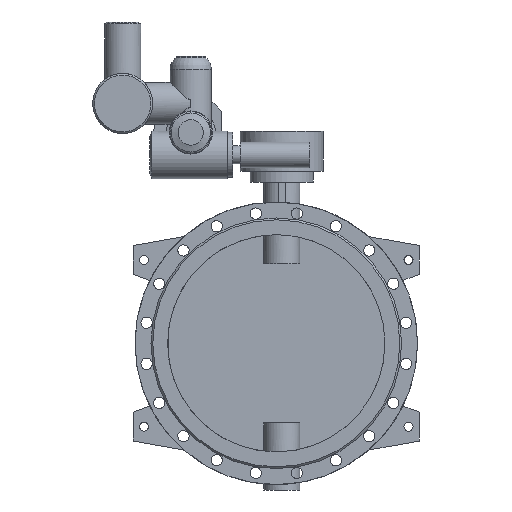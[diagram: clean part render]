
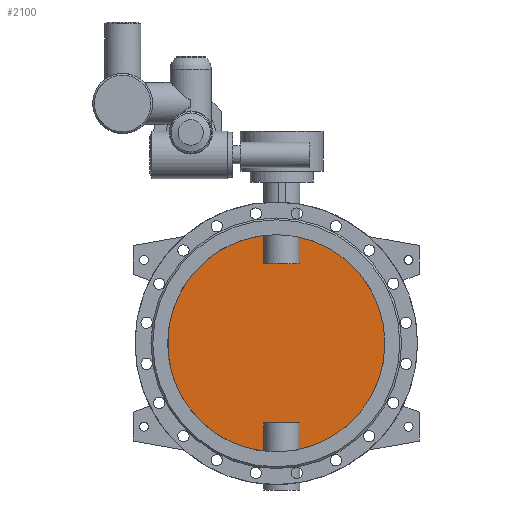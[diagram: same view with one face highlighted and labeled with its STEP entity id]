
A CAD part, front view. The second image highlights one B-rep face of the part: STEP entity #2100.
In plain terms, the highlighted planar face has unit normal (0, -1, 0).
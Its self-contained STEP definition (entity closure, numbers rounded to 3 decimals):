
#2100=ADVANCED_FACE('',(#4215),#4217,.F.);
#4215=FACE_BOUND('',#4216,.T.);
#4216=EDGE_LOOP('',(#5159,#5160,#5161,#5162,#5163,#5164,#5165,#5166));
#4217=PLANE('',#4218);
#4218=AXIS2_PLACEMENT_3D('',#4219,#4220,#4221);
#4219=CARTESIAN_POINT('',(0.,-5.,0.));
#4220=DIRECTION('',(0.,1.,0.));
#4221=DIRECTION('',(1.,0.,0.));
#5159=ORIENTED_EDGE('',*,*,#5632,.T.);
#5160=ORIENTED_EDGE('',*,*,#5637,.T.);
#5161=ORIENTED_EDGE('',*,*,#5638,.T.);
#5162=ORIENTED_EDGE('',*,*,#5639,.T.);
#5163=ORIENTED_EDGE('',*,*,#5634,.T.);
#5164=ORIENTED_EDGE('',*,*,#5640,.T.);
#5165=ORIENTED_EDGE('',*,*,#5641,.T.);
#5166=ORIENTED_EDGE('',*,*,#5642,.T.);
#5632=EDGE_CURVE('',#6461,#6462,#6463,.F.);
#5634=EDGE_CURVE('',#6466,#6464,#6467,.F.);
#5637=EDGE_CURVE('',#6462,#6471,#6472,.T.);
#5638=EDGE_CURVE('',#6471,#6473,#6474,.F.);
#5639=EDGE_CURVE('',#6473,#6466,#6475,.F.);
#5640=EDGE_CURVE('',#6464,#6476,#6477,.F.);
#5641=EDGE_CURVE('',#6476,#6478,#6479,.F.);
#5642=EDGE_CURVE('',#6478,#6461,#6480,.T.);
#6461=VERTEX_POINT('',#10587);
#6462=VERTEX_POINT('',#10588);
#6463=CIRCLE('',#10589,300.);
#6464=VERTEX_POINT('',#10593);
#6466=VERTEX_POINT('',#10680);
#6467=CIRCLE('',#10681,300.);
#6471=VERTEX_POINT('',#10798);
#6472=LINE('',#10799,#10800);
#6473=VERTEX_POINT('',#10802);
#6474=LINE('',#10803,#10804);
#6475=LINE('',#10806,#10807);
#6476=VERTEX_POINT('',#10809);
#6477=LINE('',#10810,#10811);
#6478=VERTEX_POINT('',#10813);
#6479=LINE('',#10814,#10815);
#6480=LINE('',#10817,#10818);
#10587=CARTESIAN_POINT('',(64.749,-5.,-292.929));
#10588=CARTESIAN_POINT('',(64.749,-5.,292.929));
#10589=AXIS2_PLACEMENT_3D('',#10590,#10591,#10592);
#10590=CARTESIAN_POINT('',(0.,-5.,0.));
#10591=DIRECTION('',(0.,1.,0.));
#10592=DIRECTION('',(0.216,0.,0.976));
#10593=CARTESIAN_POINT('',(-34.749,-5.,-297.981));
#10680=CARTESIAN_POINT('',(-34.749,-5.,297.981));
#10681=AXIS2_PLACEMENT_3D('',#10682,#10683,#10684);
#10682=CARTESIAN_POINT('',(0.,-5.,0.));
#10683=DIRECTION('',(0.,1.,0.));
#10684=DIRECTION('',(-0.116,0.,-0.993));
#10798=CARTESIAN_POINT('',(64.749,-5.,220.));
#10799=CARTESIAN_POINT('',(64.749,-5.,292.929));
#10800=VECTOR('',#10801,1.);
#10801=DIRECTION('',(0.,0.,-1.));
#10802=CARTESIAN_POINT('',(-34.749,-5.,220.));
#10803=CARTESIAN_POINT('',(-34.749,-5.,220.));
#10804=VECTOR('',#10805,1.);
#10805=DIRECTION('',(1.,0.,0.));
#10806=CARTESIAN_POINT('',(-34.749,-5.,297.981));
#10807=VECTOR('',#10808,1.);
#10808=DIRECTION('',(0.,0.,-1.));
#10809=CARTESIAN_POINT('',(-34.749,-5.,-220.));
#10810=CARTESIAN_POINT('',(-34.749,-5.,-220.));
#10811=VECTOR('',#10812,1.);
#10812=DIRECTION('',(0.,0.,-1.));
#10813=CARTESIAN_POINT('',(64.749,-5.,-220.));
#10814=CARTESIAN_POINT('',(64.749,-5.,-220.));
#10815=VECTOR('',#10816,1.);
#10816=DIRECTION('',(-1.,0.,0.));
#10817=CARTESIAN_POINT('',(64.749,-5.,-220.));
#10818=VECTOR('',#10819,1.);
#10819=DIRECTION('',(0.,0.,-1.));
